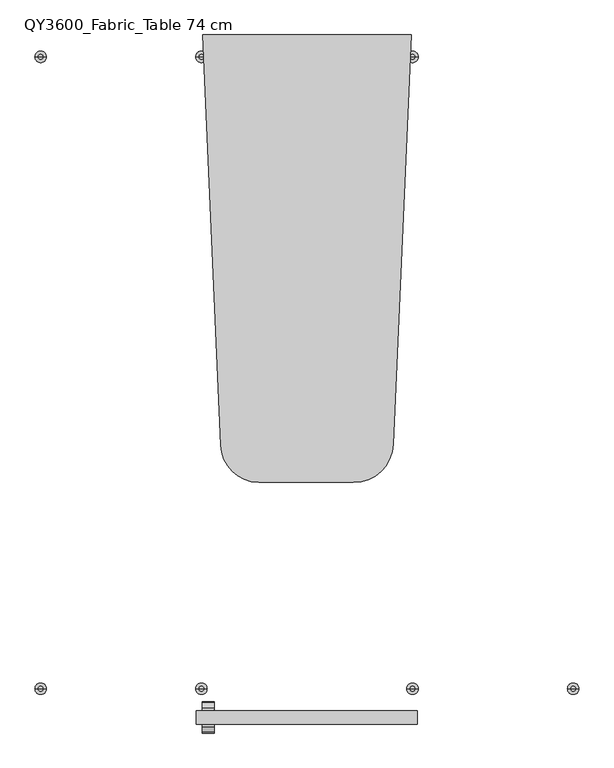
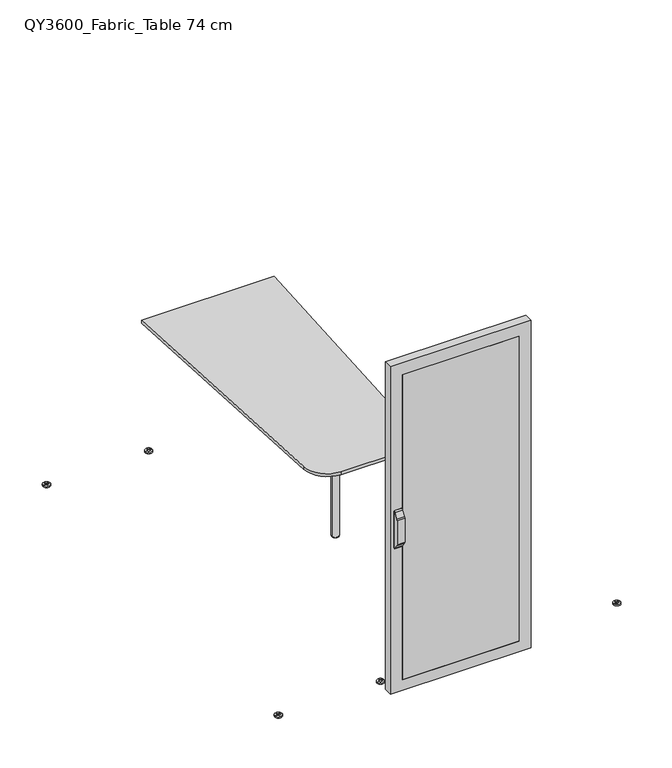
"""IFC4 building model written with IfcOpenShell, lengths in millimetres: furniture geometry, Qyos_600 : QY3600_Fabric_Table 74 cm."""

from ifc_helpers import new_model, si_unit, point, frame, frame_2d, origin, origin_with_axes, place, context, project, spatial, polyline, circle_curve, ellipse_curve, trimmed, segment, composite_curve, outline, extrude, source, transform, mapped, element, save
from ifc_brep_helpers import plane_surface, cylinder_surface, revolved_surface, advanced_brep


def qy3600_fabric_table_74_cm_bc0fd264(model_context):
    return source(origin(), model_context, "Body", "SolidModel", [
        advanced_brep(
        [(-374.085107, -1415.6314016, 980.9779398), (-374.085107, -1415.6314016, 985.9647191), (-374.085107, -1427.9469969, 991.7354618), (-374.085107, -1445.0438473, 1019.0961419), (-374.085107, -1447.6320377, 1028.7554001), (-374.085107, -1447.6320377, 1173.7554001), (-374.085107, -1443.2020658, 1196.5456299), (-374.085107, -1426.4262787, 1221.4167571), (-374.085107, -1415.6314016, 1224.0702851), (-374.085107, -1415.6314016, 1230.9669096), (-374.085107, -1427.162848, 1226.3079029), (-374.085107, -1447.7819627, 1194.5572505), (-374.085107, -1450.5, 1186.1919919), (-374.085107, -1450.5, 1025.2), (-374.085107, -1447.5610872, 1017.1254034), (-374.085107, -1427.1968679, 985.7672556), (-422.0329647, -1415.6314016, 1230.9669096), (-422.0329647, -1415.6314016, 980.9779398), (-422.0329647, -1427.1968679, 985.7672556), (-422.0329647, -1447.5610872, 1017.1254034), (-422.0329647, -1450.5, 1025.2), (-422.0329647, -1450.5, 1186.1919919), (-422.0329647, -1447.7819627, 1194.5572505), (-422.0329647, -1427.162848, 1226.3079029), (-419.3636893, -1415.6314016, 1224.0702851), (-419.3636893, -1415.6314016, 985.9647191), (-419.3636893, -1427.9469969, 991.7354618), (-419.3636893, -1426.4262787, 1221.4167571), (-419.3636893, -1443.2020658, 1196.5456299), (-419.3636893, -1447.6320377, 1173.7554001), (-419.3636893, -1447.6320377, 1028.7554001), (-419.3636893, -1445.0438473, 1019.0961419)],
        [
            (0, 1),
            (1, 2, circle_curve(frame((-374.085107, -1415.4805644, 1002.3136249), z_axis=(-1.0, 0.0, 0.0), x_axis=(0.0, -1.0, 0.0)), 16.3496016)),
            (2, 3, circle_curve(frame((-374.085107, 230.4570487, 2047.0433119), z_axis=(-1.0, 0.0, 0.0), x_axis=(0.0, -1.0, 0.0)), 1965.7005461)),
            (3, 4, circle_curve(frame((-374.085107, -1430.0644692, 1028.286235), z_axis=(-1.0, 0.0, 0.0), x_axis=(0.0, -1.0, 0.0)), 17.5738323)),
            (4, 5),
            (5, 6, circle_curve(frame((-374.085107, -1386.7942676, 1173.7554001), z_axis=(-1.0, 0.0, 0.0), x_axis=(0.0, -1.0, 0.0)), 60.8377701)),
            (6, 7, circle_curve(frame((-374.085107, -1702.3576761, 1389.4415655), z_axis=(1.0, 0.0, 0.0), x_axis=(0.0, -1.0, 0.0)), 323.0641922)),
            (7, 8, circle_curve(frame((-374.085107, -1415.6314016, 1200.7860796), z_axis=(-1.0, 0.0, 0.0), x_axis=(0.0, -1.0, 0.0)), 23.2842055)),
            (8, 9),
            (9, 10, circle_curve(frame((-374.085107, -1417.4087289, 1218.7657801), z_axis=(1.0, 0.0, 0.0), x_axis=(0.0, -1.0, 0.0)), 12.3299009)),
            (10, 11, circle_curve(frame((-374.085107, -818.9237769, 808.7424006), z_axis=(1.0, 0.0, 0.0), x_axis=(0.0, -1.0, 0.0)), 737.777552)),
            (11, 12, circle_curve(frame((-374.085107, -1431.7589098, 1184.7268438), z_axis=(1.0, 0.0, 0.0), x_axis=(0.0, -1.0, 0.0)), 18.7982744)),
            (12, 13),
            (13, 14, circle_curve(frame((-374.085107, -1403.525418, 1037.7252129), z_axis=(1.0, 0.0, 0.0), x_axis=(0.0, -1.0, 0.0)), 48.615762)),
            (14, 15, circle_curve(frame((-374.085107, -1050.5394908, 1252.6628295), z_axis=(1.0, 0.0, 0.0), x_axis=(0.0, -1.0, 0.0)), 461.6319174)),
            (15, 0, circle_curve(frame((-374.085107, -1417.6091735, 992.560998), z_axis=(1.0, 0.0, 0.0), x_axis=(0.0, -1.0, 0.0)), 11.7506945)),
            (16, 17),
            (17, 18, circle_curve(frame((-422.0329647, -1417.6091735, 992.560998), z_axis=(-1.0, 0.0, 0.0), x_axis=(0.0, -1.0, 0.0)), 11.7506945)),
            (18, 19, circle_curve(frame((-422.0329647, -1050.5394908, 1252.6628295), z_axis=(-1.0, 0.0, 0.0), x_axis=(0.0, -1.0, 0.0)), 461.6319174)),
            (19, 20, circle_curve(frame((-422.0329647, -1403.525418, 1037.7252129), z_axis=(-1.0, 0.0, 0.0), x_axis=(0.0, -1.0, 0.0)), 48.615762)),
            (20, 21),
            (21, 22, circle_curve(frame((-422.0329647, -1431.7589098, 1184.7268438), z_axis=(-1.0, 0.0, 0.0), x_axis=(0.0, -1.0, 0.0)), 18.7982744)),
            (22, 23, circle_curve(frame((-422.0329647, -818.9237769, 808.7424006), z_axis=(-1.0, 0.0, 0.0), x_axis=(0.0, -1.0, 0.0)), 737.777552)),
            (23, 16, circle_curve(frame((-422.0329647, -1417.4087289, 1218.7657801), z_axis=(-1.0, 0.0, 0.0), x_axis=(0.0, -1.0, 0.0)), 12.3299009)),
            (16, 9),
            (8, 24),
            (24, 25),
            (25, 1),
            (0, 17),
            (15, 18),
            (14, 19),
            (13, 20),
            (12, 21),
            (11, 22),
            (10, 23),
            (26, 25, circle_curve(frame((-419.3636893, -1415.4805644, 1002.3136249), z_axis=(1.0, 0.0, 0.0), x_axis=(0.0, -1.0, 0.0)), 16.3496016)),
            (24, 27, circle_curve(frame((-419.3636893, -1415.6314016, 1200.7860796), z_axis=(1.0, 0.0, 0.0), x_axis=(0.0, -1.0, 0.0)), 23.2842055)),
            (27, 28, circle_curve(frame((-419.3636893, -1702.3576761, 1389.4415655), z_axis=(-1.0, 0.0, 0.0), x_axis=(0.0, -1.0, 0.0)), 323.0641922)),
            (28, 29, circle_curve(frame((-419.3636893, -1386.7942676, 1173.7554001), z_axis=(1.0, 0.0, 0.0), x_axis=(0.0, -1.0, 0.0)), 60.8377701)),
            (29, 30),
            (30, 31, circle_curve(frame((-419.3636893, -1430.0644692, 1028.286235), z_axis=(1.0, 0.0, 0.0), x_axis=(0.0, -1.0, 0.0)), 17.5738323)),
            (31, 26, circle_curve(frame((-419.3636893, 230.4570487, 2047.0433119), z_axis=(1.0, 0.0, 0.0), x_axis=(0.0, -1.0, 0.0)), 1965.7005461)),
            (26, 2),
            (31, 3),
            (30, 4),
            (29, 5),
            (28, 6),
            (27, 7),
        ],
        [
            plane_surface(frame((-374.085107, -1415.6314016, 980.9779398), z_axis=(1.0, 0.0, 0.0), x_axis=(0.0, 0.0, -1.0))),
            plane_surface(frame((-422.0329647, -1415.6314016, 980.9779398), z_axis=(-1.0, 0.0, 0.0), x_axis=(0.0, 0.0, 1.0))),
            plane_surface(frame((-374.085107, -1415.6314016, 1230.9669096), z_axis=(0.0, 1.0, 0.0), x_axis=(-1.0, 0.0, 0.0))),
            cylinder_surface(frame((-422.0329647, -1417.6091735, 992.560998), z_axis=(1.0, 0.0, 0.0), x_axis=(0.0, -1.0, 0.0)), 11.7506945),
            cylinder_surface(frame((-422.0329647, -1050.5394908, 1252.6628295), z_axis=(1.0, 0.0, 0.0), x_axis=(0.0, -1.0, 0.0)), 461.6319174),
            cylinder_surface(frame((-422.0329647, -1403.525418, 1037.7252129), z_axis=(1.0, 0.0, 0.0), x_axis=(0.0, -1.0, 0.0)), 48.615762),
            plane_surface(frame((-374.085107, -1450.5, 1025.2), z_axis=(0.0, -1.0, 0.0), x_axis=(-1.0, 0.0, 0.0))),
            cylinder_surface(frame((-422.0329647, -1431.7589098, 1184.7268438), z_axis=(1.0, 0.0, 0.0), x_axis=(0.0, -1.0, 0.0)), 18.7982744),
            cylinder_surface(frame((-422.0329647, -818.9237769, 808.7424006), z_axis=(1.0, 0.0, 0.0), x_axis=(0.0, -1.0, 0.0)), 737.777552),
            cylinder_surface(frame((-422.0329647, -1417.4087289, 1218.7657801), z_axis=(1.0, 0.0, 0.0), x_axis=(0.0, -1.0, 0.0)), 12.3299009),
            plane_surface(frame((-419.3636893, -1401.7185794, 1224.0702851), z_axis=(1.0, 0.0, 0.0), x_axis=(0.0, 0.0, 1.0))),
            revolved_surface(polyline([(-374.085107, -1431.830166, 1002.3136249), (-419.3636893, -1431.830166, 1002.3136249)]), (-419.3636893, -1415.4805644, 1002.3136249), (1.0, 0.0, 0.0)),
            revolved_surface(polyline([(-374.085107, -1735.2434974, 2047.0433119), (-419.3636893, -1735.2434974, 2047.0433119)]), (-419.3636893, 230.4570487, 2047.0433119), (1.0, 0.0, 0.0)),
            revolved_surface(polyline([(-374.085107, -1447.6383015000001, 1028.286235), (-419.3636893, -1447.6383015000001, 1028.286235)]), (-419.3636893, -1430.0644692, 1028.286235), (1.0, 0.0, 0.0)),
            plane_surface(frame((-366.879078, -1447.6320377, 1028.7554001), z_axis=(0.0, 1.0, 0.0), x_axis=(-1.0, 0.0, 0.0))),
            revolved_surface(polyline([(-374.085107, -1447.6320377, 1173.7554001), (-419.3636893, -1447.6320377, 1173.7554001)]), (-419.3636893, -1386.7942676, 1173.7554001), (1.0, 0.0, 0.0)),
            cylinder_surface(frame((-419.3636893, -1702.3576761, 1389.4415655), z_axis=(-1.0, 0.0, 0.0), x_axis=(0.0, -1.0, 0.0)), 323.0641922),
            revolved_surface(polyline([(-374.085107, -1438.9156071, 1200.7860796), (-419.3636893, -1438.9156071, 1200.7860796)]), (-419.3636893, -1415.6314016, 1200.7860796), (1.0, 0.0, 0.0)),
        ],
        [
            (0, [[1, 2, 3, 4, 5, 6, 7, 8, 9, 10, 11, 12, 13, 14, 15, 16]]),
            (1, [[17, 18, 19, 20, 21, 22, 23, 24]]),
            (2, [[25, -9, 26, 27, 28, -1, 29, -17]]),
            (3, [[30, -18, -29, -16]]),
            (4, [[31, -19, -30, -15]]),
            (5, [[32, -20, -31, -14]]),
            (6, [[33, -21, -32, -13]]),
            (7, [[34, -22, -33, -12]]),
            (8, [[35, -23, -34, -11]]),
            (9, [[-25, -24, -35, -10]]),
            (10, [[36, -27, 37, 38, 39, 40, 41, 42]]),
            (11, [[43, -2, -28, -36]]),
            (12, [[44, -3, -43, -42]]),
            (13, [[45, -4, -44, -41]]),
            (14, [[46, -5, -45, -40]]),
            (15, [[47, -6, -46, -39]]),
            (16, [[48, -7, -47, -38]]),
            (17, [[-26, -8, -48, -37]]),
        ],
    ),
        extrude(outline(composite_curve([segment(polyline([(1230.9669096, -377.0853832), (1230.9669096, -417.0486701)]), True, "CONTINUOUS"), segment(trimmed(circle_curve(frame_2d((1225.973762, -417.0486701)), 4.9931477), [point((1230.9669096, -417.0486701))], [point((1225.973762, -422.0418178))], False, "CARTESIAN"), True, "CONTINUOUS"), segment(polyline([(1225.973762, -422.0418178), (985.9710874, -422.0418178)]), True, "CONTINUOUS"), segment(trimmed(circle_curve(frame_2d((985.9710874, -417.0486701)), 4.9931477), [point((985.9710874, -422.0418178))], [point((980.9779398, -417.0486701))], False, "CARTESIAN"), True, "CONTINUOUS"), segment(polyline([(980.9779398, -417.0486701), (980.9779398, -377.0831887)]), True, "CONTINUOUS"), segment(trimmed(circle_curve(frame_2d((983.9760215, -377.0831887)), 2.9980817), [point((980.9779398, -377.0831887))], [point((983.9760215, -374.085107))], False, "CARTESIAN"), True, "CONTINUOUS"), segment(polyline([(983.9760215, -374.085107), (985.9777208, -374.085107)]), True, "CONTINUOUS"), segment(trimmed(circle_curve(frame_2d((985.9777208, -376.3357001)), 2.2505931), [point((985.9777208, -374.085107))], [point((988.1941223, -375.9448887))], False, "CARTESIAN"), True, "CONTINUOUS"), segment(trimmed(circle_curve(frame_2d((1002.686839, -375.1402608)), 14.5150358), [point((988.1941223, -375.9448887))], [point((999.6402401, -389.331966))], True, "CARTESIAN"), True, "CONTINUOUS"), segment(trimmed(circle_curve(frame_2d((999.3564071, -397.3512428)), 8.0242982), [point((999.6402401, -389.331966))], [point((1007.3803501, -397.4267349))], False, "CARTESIAN"), True, "CONTINUOUS"), segment(trimmed(circle_curve(frame_2d((984.8527266, -400.9632944)), 22.803532), [point((1007.3803501, -397.4267349))], [point((1007.3098217, -404.9230861))], False, "CARTESIAN"), True, "CONTINUOUS"), segment(trimmed(circle_curve(frame_2d((1018.7344643, -406.9375589)), 11.600886), [point((1007.3098217, -404.9230861))], [point((1018.7344643, -418.5384449))], True, "CARTESIAN"), True, "CONTINUOUS"), segment(polyline([(1018.7344643, -418.5384449), (1193.2103851, -418.5384449)]), True, "CONTINUOUS"), segment(trimmed(circle_curve(frame_2d((1193.2103851, -406.5714853)), 11.9669596), [point((1193.2103851, -418.5384449))], [point((1205.1773447, -406.5714853))], True, "CARTESIAN"), True, "CONTINUOUS"), segment(polyline([(1205.1773447, -406.5714853), (1205.1773447, -398.0395804)]), True, "CONTINUOUS"), segment(trimmed(circle_curve(frame_2d((1213.8757406, -398.0395804)), 8.6983958), [point((1205.1773447, -398.0395804))], [point((1212.36528, -389.4733327))], False, "CARTESIAN"), True, "CONTINUOUS"), segment(trimmed(circle_curve(frame_2d((1209.9037954, -375.5135599)), 14.1751248), [point((1212.36528, -389.4733327))], [point((1224.0702851, -376.0082646))], True, "CARTESIAN"), True, "CONTINUOUS"), segment(trimmed(circle_curve(frame_2d((1225.9934427, -376.0082646)), 1.9231576), [point((1224.0702851, -376.0082646))], [point((1225.9934427, -374.085107))], False, "CARTESIAN"), True, "CONTINUOUS"), segment(polyline([(1225.9934427, -374.085107), (1227.9666334, -374.085107)]), True, "CONTINUOUS"), segment(trimmed(circle_curve(frame_2d((1227.9666334, -377.0853832)), 3.0002762), [point((1227.9666334, -374.085107))], [point((1230.9669096, -377.0853832))], False, "CARTESIAN"), True, "CONTINUOUS")], self_intersect=False)), frame((0.0, -1415.6314016, 0.0), z_axis=(0.0, 1.0, 0.0), x_axis=(0.0, 0.0, 1.0)), (0.0, 0.0, 1.0), 0.6314016),
        advanced_brep(
        [(-374.085107, -1359.3642803, 980.9779398), (-374.085107, -1347.798814, 985.7672556), (-374.085107, -1327.4345947, 1017.1254034), (-374.085107, -1324.4956819, 1025.2), (-374.085107, -1324.4956819, 1186.1919919), (-374.085107, -1327.2137192, 1194.5572505), (-374.085107, -1347.8328339, 1226.3079029), (-374.085107, -1359.3642803, 1230.9669096), (-374.085107, -1359.3642803, 1224.0702851), (-374.085107, -1348.5694032, 1221.4167571), (-374.085107, -1331.7936161, 1196.5456299), (-374.085107, -1327.3636441, 1173.7554001), (-374.085107, -1327.3636441, 1028.7554001), (-374.085107, -1329.9518346, 1019.0961419), (-374.085107, -1347.048685, 991.7354618), (-374.085107, -1359.3642803, 985.9647191), (-422.0329647, -1359.3642803, 1230.9669096), (-422.0329647, -1347.8328339, 1226.3079029), (-422.0329647, -1327.2137192, 1194.5572505), (-422.0329647, -1324.4956819, 1186.1919919), (-422.0329647, -1324.4956819, 1025.2), (-422.0329647, -1327.4345947, 1017.1254034), (-422.0329647, -1347.798814, 985.7672556), (-422.0329647, -1359.3642803, 980.9779398), (-419.3636893, -1359.3642803, 985.9647191), (-419.3636893, -1359.3642803, 1224.0702851), (-419.3636893, -1347.048685, 991.7354618), (-419.3636893, -1329.9518346, 1019.0961419), (-419.3636893, -1327.3636441, 1028.7554001), (-419.3636893, -1327.3636441, 1173.7554001), (-419.3636893, -1331.7936161, 1196.5456299), (-419.3636893, -1348.5694032, 1221.4167571)],
        [
            (0, 1, circle_curve(frame((-374.085107, -1357.3865084, 992.560998), z_axis=(1.0, 0.0, 0.0), x_axis=(0.0, 1.0, 0.0)), 11.7506945)),
            (1, 2, circle_curve(frame((-374.085107, -1724.4561911, 1252.6628295), z_axis=(1.0, 0.0, 0.0), x_axis=(0.0, 1.0, 0.0)), 461.6319174)),
            (2, 3, circle_curve(frame((-374.085107, -1371.4702639, 1037.7252129), z_axis=(1.0, 0.0, 0.0), x_axis=(0.0, 1.0, 0.0)), 48.615762)),
            (3, 4),
            (4, 5, circle_curve(frame((-374.085107, -1343.236772, 1184.7268438), z_axis=(1.0, 0.0, 0.0), x_axis=(0.0, 1.0, 0.0)), 18.7982744)),
            (5, 6, circle_curve(frame((-374.085107, -1956.071905, 808.7424006), z_axis=(1.0, 0.0, 0.0), x_axis=(0.0, 1.0, 0.0)), 737.777552)),
            (6, 7, circle_curve(frame((-374.085107, -1357.586953, 1218.7657801), z_axis=(1.0, 0.0, 0.0), x_axis=(0.0, 1.0, 0.0)), 12.3299009)),
            (7, 8),
            (8, 9, circle_curve(frame((-374.085107, -1359.3642803, 1200.7860796), z_axis=(-1.0, 0.0, 0.0), x_axis=(0.0, 1.0, 0.0)), 23.2842055)),
            (9, 10, circle_curve(frame((-374.085107, -1072.6380058, 1389.4415655), z_axis=(1.0, 0.0, 0.0), x_axis=(0.0, 1.0, 0.0)), 323.0641922)),
            (10, 11, circle_curve(frame((-374.085107, -1388.2014142, 1173.7554001), z_axis=(-1.0, 0.0, 0.0), x_axis=(0.0, 1.0, 0.0)), 60.8377701)),
            (11, 12),
            (12, 13, circle_curve(frame((-374.085107, -1344.9312127, 1028.286235), z_axis=(-1.0, 0.0, 0.0), x_axis=(0.0, 1.0, 0.0)), 17.5738323)),
            (13, 14, circle_curve(frame((-374.085107, -3005.4527306, 2047.0433119), z_axis=(-1.0, 0.0, 0.0), x_axis=(0.0, 1.0, 0.0)), 1965.7005461)),
            (14, 15, circle_curve(frame((-374.085107, -1359.5151175, 1002.3136249), z_axis=(-1.0, 0.0, 0.0), x_axis=(0.0, 1.0, 0.0)), 16.3496016)),
            (15, 0),
            (16, 17, circle_curve(frame((-422.0329647, -1357.586953, 1218.7657801), z_axis=(-1.0, 0.0, 0.0), x_axis=(0.0, 1.0, 0.0)), 12.3299009)),
            (17, 18, circle_curve(frame((-422.0329647, -1956.071905, 808.7424006), z_axis=(-1.0, 0.0, 0.0), x_axis=(0.0, 1.0, 0.0)), 737.777552)),
            (18, 19, circle_curve(frame((-422.0329647, -1343.236772, 1184.7268438), z_axis=(-1.0, 0.0, 0.0), x_axis=(0.0, 1.0, 0.0)), 18.7982744)),
            (19, 20),
            (20, 21, circle_curve(frame((-422.0329647, -1371.4702639, 1037.7252129), z_axis=(-1.0, 0.0, 0.0), x_axis=(0.0, 1.0, 0.0)), 48.615762)),
            (21, 22, circle_curve(frame((-422.0329647, -1724.4561911, 1252.6628295), z_axis=(-1.0, 0.0, 0.0), x_axis=(0.0, 1.0, 0.0)), 461.6319174)),
            (22, 23, circle_curve(frame((-422.0329647, -1357.3865084, 992.560998), z_axis=(-1.0, 0.0, 0.0), x_axis=(0.0, 1.0, 0.0)), 11.7506945)),
            (23, 16),
            (23, 0),
            (15, 24),
            (24, 25),
            (25, 8),
            (7, 16),
            (22, 1),
            (21, 2),
            (20, 3),
            (19, 4),
            (18, 5),
            (17, 6),
            (26, 27, circle_curve(frame((-419.3636893, -3005.4527306, 2047.0433119), z_axis=(1.0, 0.0, 0.0), x_axis=(0.0, 1.0, 0.0)), 1965.7005461)),
            (27, 28, circle_curve(frame((-419.3636893, -1344.9312127, 1028.286235), z_axis=(1.0, 0.0, 0.0), x_axis=(0.0, 1.0, 0.0)), 17.5738323)),
            (28, 29),
            (29, 30, circle_curve(frame((-419.3636893, -1388.2014142, 1173.7554001), z_axis=(1.0, 0.0, 0.0), x_axis=(0.0, 1.0, 0.0)), 60.8377701)),
            (30, 31, circle_curve(frame((-419.3636893, -1072.6380058, 1389.4415655), z_axis=(-1.0, 0.0, 0.0), x_axis=(0.0, 1.0, 0.0)), 323.0641922)),
            (31, 25, circle_curve(frame((-419.3636893, -1359.3642803, 1200.7860796), z_axis=(1.0, 0.0, 0.0), x_axis=(0.0, 1.0, 0.0)), 23.2842055)),
            (24, 26, circle_curve(frame((-419.3636893, -1359.5151175, 1002.3136249), z_axis=(1.0, 0.0, 0.0), x_axis=(0.0, 1.0, 0.0)), 16.3496016)),
            (14, 26),
            (13, 27),
            (12, 28),
            (11, 29),
            (10, 30),
            (9, 31),
        ],
        [
            plane_surface(frame((-374.085107, -1359.3642803, 980.9779398), z_axis=(1.0, 0.0, 0.0), x_axis=(0.0, 0.0, -1.0))),
            plane_surface(frame((-422.0329647, -1359.3642803, 980.9779398), z_axis=(-1.0, 0.0, 0.0), x_axis=(0.0, 0.0, 1.0))),
            plane_surface(frame((-374.085107, -1359.3642803, 1230.9669096), z_axis=(0.0, -1.0, 0.0), x_axis=(-1.0, 0.0, 0.0))),
            cylinder_surface(frame((-422.0329647, -1357.3865084, 992.560998), z_axis=(1.0, 0.0, 0.0), x_axis=(0.0, 1.0, 0.0)), 11.7506945),
            cylinder_surface(frame((-422.0329647, -1724.4561911, 1252.6628295), z_axis=(1.0, 0.0, 0.0), x_axis=(0.0, 1.0, 0.0)), 461.6319174),
            cylinder_surface(frame((-422.0329647, -1371.4702639, 1037.7252129), z_axis=(1.0, 0.0, 0.0), x_axis=(0.0, 1.0, 0.0)), 48.615762),
            plane_surface(frame((-374.085107, -1324.4956819, 1025.2), z_axis=(0.0, 1.0, 0.0), x_axis=(-1.0, 0.0, 0.0))),
            cylinder_surface(frame((-422.0329647, -1343.236772, 1184.7268438), z_axis=(1.0, 0.0, 0.0), x_axis=(0.0, 1.0, 0.0)), 18.7982744),
            cylinder_surface(frame((-422.0329647, -1956.071905, 808.7424006), z_axis=(1.0, 0.0, 0.0), x_axis=(0.0, 1.0, 0.0)), 737.777552),
            cylinder_surface(frame((-422.0329647, -1357.586953, 1218.7657801), z_axis=(1.0, 0.0, 0.0), x_axis=(0.0, 1.0, 0.0)), 12.3299009),
            plane_surface(frame((-419.3636893, -1373.2771024, 1224.0702851), z_axis=(1.0, 0.0, 0.0), x_axis=(0.0, 0.0, 1.0))),
            revolved_surface(polyline([(-374.085107, -1343.1655159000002, 1002.3136249), (-419.3636893, -1343.1655159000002, 1002.3136249)]), (-419.3636893, -1359.5151175, 1002.3136249), (1.0, 0.0, 0.0)),
            revolved_surface(polyline([(-374.085107, -1039.7521844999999, 2047.0433119), (-419.3636893, -1039.7521844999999, 2047.0433119)]), (-419.3636893, -3005.4527306, 2047.0433119), (1.0, 0.0, 0.0)),
            revolved_surface(polyline([(-374.085107, -1327.3573804, 1028.286235), (-419.3636893, -1327.3573804, 1028.286235)]), (-419.3636893, -1344.9312127, 1028.286235), (1.0, 0.0, 0.0)),
            plane_surface(frame((-366.879078, -1327.3636441, 1028.7554001), z_axis=(0.0, -1.0, 0.0), x_axis=(-1.0, 0.0, 0.0))),
            revolved_surface(polyline([(-374.085107, -1327.3636441, 1173.7554001), (-419.3636893, -1327.3636441, 1173.7554001)]), (-419.3636893, -1388.2014142, 1173.7554001), (1.0, 0.0, 0.0)),
            cylinder_surface(frame((-419.3636893, -1072.6380058, 1389.4415655), z_axis=(-1.0, 0.0, 0.0), x_axis=(0.0, 1.0, 0.0)), 323.0641922),
            revolved_surface(polyline([(-374.085107, -1336.0800748, 1200.7860796), (-419.3636893, -1336.0800748, 1200.7860796)]), (-419.3636893, -1359.3642803, 1200.7860796), (1.0, 0.0, 0.0)),
        ],
        [
            (0, [[1, 2, 3, 4, 5, 6, 7, 8, 9, 10, 11, 12, 13, 14, 15, 16]]),
            (1, [[17, 18, 19, 20, 21, 22, 23, 24]]),
            (2, [[-24, 25, -16, 26, 27, 28, -8, 29]]),
            (3, [[-1, -25, -23, 30]]),
            (4, [[-2, -30, -22, 31]]),
            (5, [[-3, -31, -21, 32]]),
            (6, [[-4, -32, -20, 33]]),
            (7, [[-5, -33, -19, 34]]),
            (8, [[-6, -34, -18, 35]]),
            (9, [[-7, -35, -17, -29]]),
            (10, [[36, 37, 38, 39, 40, 41, -27, 42]]),
            (11, [[-42, -26, -15, 43]]),
            (12, [[-36, -43, -14, 44]]),
            (13, [[-37, -44, -13, 45]]),
            (14, [[-38, -45, -12, 46]]),
            (15, [[-39, -46, -11, 47]]),
            (16, [[-40, -47, -10, 48]]),
            (17, [[-41, -48, -9, -28]]),
        ],
    ),
        extrude(outline(composite_curve([segment(polyline([(1230.9669096, -377.0853832), (1230.9669096, -417.0486701)]), True, "CONTINUOUS"), segment(trimmed(circle_curve(frame_2d((1225.973762, -417.0486701)), 4.9931477), [point((1230.9669096, -417.0486701))], [point((1225.973762, -422.0418178))], False, "CARTESIAN"), True, "CONTINUOUS"), segment(polyline([(1225.973762, -422.0418178), (985.9710874, -422.0418178)]), True, "CONTINUOUS"), segment(trimmed(circle_curve(frame_2d((985.9710874, -417.0486701)), 4.9931477), [point((985.9710874, -422.0418178))], [point((980.9779398, -417.0486701))], False, "CARTESIAN"), True, "CONTINUOUS"), segment(polyline([(980.9779398, -417.0486701), (980.9779398, -377.0831887)]), True, "CONTINUOUS"), segment(trimmed(circle_curve(frame_2d((983.9760215, -377.0831887)), 2.9980817), [point((980.9779398, -377.0831887))], [point((983.9760215, -374.085107))], False, "CARTESIAN"), True, "CONTINUOUS"), segment(polyline([(983.9760215, -374.085107), (985.9777208, -374.085107)]), True, "CONTINUOUS"), segment(trimmed(circle_curve(frame_2d((985.9777208, -376.3357001)), 2.2505931), [point((985.9777208, -374.085107))], [point((988.1941223, -375.9448887))], False, "CARTESIAN"), True, "CONTINUOUS"), segment(trimmed(circle_curve(frame_2d((1002.686839, -375.1402608)), 14.5150358), [point((988.1941223, -375.9448887))], [point((999.6402401, -389.331966))], True, "CARTESIAN"), True, "CONTINUOUS"), segment(trimmed(circle_curve(frame_2d((999.3564071, -397.3512428)), 8.0242982), [point((999.6402401, -389.331966))], [point((1007.3803501, -397.4267349))], False, "CARTESIAN"), True, "CONTINUOUS"), segment(trimmed(circle_curve(frame_2d((984.8527266, -400.9632944)), 22.803532), [point((1007.3803501, -397.4267349))], [point((1007.3098217, -404.9230861))], False, "CARTESIAN"), True, "CONTINUOUS"), segment(trimmed(circle_curve(frame_2d((1018.7344643, -406.9375589)), 11.600886), [point((1007.3098217, -404.9230861))], [point((1018.7344643, -418.5384449))], True, "CARTESIAN"), True, "CONTINUOUS"), segment(polyline([(1018.7344643, -418.5384449), (1193.2103851, -418.5384449)]), True, "CONTINUOUS"), segment(trimmed(circle_curve(frame_2d((1193.2103851, -406.5714853)), 11.9669596), [point((1193.2103851, -418.5384449))], [point((1205.1773447, -406.5714853))], True, "CARTESIAN"), True, "CONTINUOUS"), segment(polyline([(1205.1773447, -406.5714853), (1205.1773447, -398.0395804)]), True, "CONTINUOUS"), segment(trimmed(circle_curve(frame_2d((1213.8757406, -398.0395804)), 8.6983958), [point((1205.1773447, -398.0395804))], [point((1212.36528, -389.4733327))], False, "CARTESIAN"), True, "CONTINUOUS"), segment(trimmed(circle_curve(frame_2d((1209.9037954, -375.5135599)), 14.1751248), [point((1212.36528, -389.4733327))], [point((1224.0702851, -376.0082646))], True, "CARTESIAN"), True, "CONTINUOUS"), segment(trimmed(circle_curve(frame_2d((1225.9934427, -376.0082646)), 1.9231576), [point((1224.0702851, -376.0082646))], [point((1225.9934427, -374.085107))], False, "CARTESIAN"), True, "CONTINUOUS"), segment(polyline([(1225.9934427, -374.085107), (1227.9666334, -374.085107)]), True, "CONTINUOUS"), segment(trimmed(circle_curve(frame_2d((1227.9666334, -377.0853832)), 3.0002762), [point((1227.9666334, -374.085107))], [point((1230.9669096, -377.0853832))], False, "CARTESIAN"), True, "CONTINUOUS")], self_intersect=False)), frame((0.0, -1359.9956819, 0.0), z_axis=(0.0, 1.0, 0.0), x_axis=(0.0, 0.0, 1.0)), (0.0, 0.0, 1.0), 0.6314016),
        extrude(outline(polyline([(369.5, -1415.0), (-369.5, -1415.0), (-369.5, -1410.0), (369.5, -1410.0), (369.5, -1415.0)])), frame((0.0, 0.0, 82.0), z_axis=(0.0, 0.0, 1.0), x_axis=(1.0, 0.0, 0.0)), (0.0, 0.0, 1.0), 2040.1),
        extrude(outline(polyline([(10.0, -445.0), (10.0, 445.0), (2202.1, 445.0), (2202.1, -445.0), (10.0, -445.0)]), holes=[polyline([(82.0, 369.5), (82.0, -369.5), (2122.1, -369.5), (2122.1, 369.5), (82.0, 369.5)])]), frame((0.0, -1415.0, 0.0), z_axis=(0.0, 1.0, 0.0), x_axis=(0.0, 0.0, 1.0)), (0.0, 0.0, 1.0), 55.0043181),
        advanced_brep(
        [(0.0, -40.0, 82.0), (18.7621631, -40.0, 82.0), (-18.7621631, -40.0, 82.0), (22.480604, -40.0, 85.7184409), (-22.480604, -40.0, 85.7184409), (22.480604, -40.0, 803.0), (-22.480604, -40.0, 803.0), (0.0, -40.0, 803.0)],
        [
            (0, 1),
            (1, 2, circle_curve(frame((0.0, -40.0, 82.0), z_axis=(0.0, 0.0, -1.0), x_axis=(1.0, 0.0, 0.0)), 18.7621631)),
            (2, 0),
            (2, 1, circle_curve(frame((0.0, -40.0, 82.0), z_axis=(0.0, 0.0, -1.0), x_axis=(1.0, 0.0, 0.0)), 18.7621631)),
            (1, 3, circle_curve(frame((16.4330916, -40.0, 88.0475124), z_axis=(0.0, -1.0, 0.0), x_axis=(-1.0, 0.0, 0.0)), 6.4805077)),
            (3, 4, circle_curve(frame((0.0, -40.0, 85.7184409), z_axis=(0.0, 0.0, -1.0), x_axis=(1.0, 0.0, 0.0)), 22.480604)),
            (4, 2, circle_curve(frame((-16.4330916, -40.0, 88.0475124), z_axis=(0.0, -1.0, 0.0), x_axis=(1.0, 0.0, 0.0)), 6.4805077)),
            (4, 3, circle_curve(frame((0.0, -40.0, 85.7184409), z_axis=(0.0, 0.0, -1.0), x_axis=(1.0, 0.0, 0.0)), 22.480604)),
            (3, 5),
            (5, 6, circle_curve(frame((0.0, -40.0, 803.0), z_axis=(0.0, 0.0, -1.0), x_axis=(1.0, 0.0, 0.0)), 22.480604)),
            (6, 4),
            (6, 5, circle_curve(frame((0.0, -40.0, 803.0), z_axis=(0.0, 0.0, -1.0), x_axis=(1.0, 0.0, 0.0)), 22.480604)),
            (5, 7),
            (7, 6),
        ],
        [
            plane_surface(frame((0.0, -40.0, 82.0), z_axis=(0.0, 0.0, -1.0), x_axis=(1.0, 0.0, 0.0))),
            revolved_surface(trimmed(ellipse_curve(frame((16.4330916, -40.0, 88.0475124), z_axis=(0.0, 1.0, 0.0), x_axis=(-1.0, 0.0, 0.0)), 6.4805077, 6.4805077), [point((22.480604, -40.0, 85.7184409))], [point((18.7621631, -40.0, 82.0))], True, "CARTESIAN"), (0.0, -40.0, 1672.4144888), (0.0, 0.0, -1.0)),
            cylinder_surface(frame((0.0, -40.0, 1672.4144888), z_axis=(0.0, 0.0, -1.0), x_axis=(1.0, 0.0, 0.0)), 22.480604),
            plane_surface(frame((0.0, -40.0, 803.0), z_axis=(0.0, 0.0, 1.0), x_axis=(1.0, 0.0, 0.0))),
        ],
        [
            (0, [[1, 2, 3]]),
            (0, [[-3, 4, -1]]),
            (1, [[-2, 5, 6, 7]]),
            (1, [[-4, -7, 8, -5]]),
            (2, [[-6, 9, 10, 11]]),
            (2, [[-8, -11, 12, -9]]),
            (3, [[-10, 13, 14]]),
            (3, [[-12, -14, -13]]),
        ],
    ),
        extrude(outline(composite_curve([segment(polyline([(-420.0, 1360.0), (420.0, 1360.0), (348.0404396, -287.7046855)]), True, "CONTINUOUS"), segment(trimmed(circle_curve(frame_2d((187.5, -280.6934658)), 160.6934658), [point((348.0404396, -287.7046855))], [point((187.5, -441.3869317))], False, "CARTESIAN"), True, "CONTINUOUS"), segment(polyline([(187.5, -441.3869317), (-194.7276636, -441.3869317)]), True, "CONTINUOUS"), segment(trimmed(circle_curve(frame_2d((-191.1138318, -284.8919121)), 156.5367399), [point((-194.7276636, -441.3869317))], [point((-347.5, -291.7561198))], False, "CARTESIAN"), True, "CONTINUOUS"), segment(polyline([(-347.5, -291.7561198), (-420.0, 1360.0)]), True, "CONTINUOUS")], self_intersect=False)), frame((0.0, 0.0, 803.0), z_axis=(0.0, 0.0, 1.0), x_axis=(1.0, 0.0, 0.0)), (0.0, 0.0, 1.0), 19.0),
        advanced_brep(
        [(401.8585356, -1272.0, 0.0), (448.1414644, -1272.0, 0.0), (425.0, -1272.0, 0.0), (401.8585356, -1272.0, 7.0), (448.1414644, -1272.0, 7.0), (415.3615446, -1272.0, 7.0), (434.6384554, -1272.0, 7.0), (415.3615446, -1272.0, 17.0), (434.6384554, -1272.0, 17.0), (425.0, -1272.0, 17.0)],
        [
            (0, 1, circle_curve(frame((425.0, -1272.0, 0.0), z_axis=(0.0, 0.0, -1.0), x_axis=(1.0, 0.0, 0.0)), 23.1414644)),
            (1, 2),
            (2, 0),
            (1, 0, circle_curve(frame((425.0, -1272.0, 0.0), z_axis=(0.0, 0.0, -1.0), x_axis=(1.0, 0.0, 0.0)), 23.1414644)),
            (3, 4, circle_curve(frame((425.0, -1272.0, 7.0), z_axis=(0.0, 0.0, -1.0), x_axis=(1.0, 0.0, 0.0)), 23.1414644)),
            (4, 1),
            (0, 3),
            (4, 3, circle_curve(frame((425.0, -1272.0, 7.0), z_axis=(0.0, 0.0, -1.0), x_axis=(1.0, 0.0, 0.0)), 23.1414644)),
            (5, 6, circle_curve(frame((425.0, -1272.0, 7.0), z_axis=(0.0, 0.0, -1.0), x_axis=(1.0, 0.0, 0.0)), 9.6384554)),
            (6, 4),
            (3, 5),
            (6, 5, circle_curve(frame((425.0, -1272.0, 7.0), z_axis=(0.0, 0.0, -1.0), x_axis=(1.0, 0.0, 0.0)), 9.6384554)),
            (7, 8, circle_curve(frame((425.0, -1272.0, 17.0), z_axis=(0.0, 0.0, -1.0), x_axis=(1.0, 0.0, 0.0)), 9.6384554)),
            (8, 6),
            (5, 7),
            (8, 7, circle_curve(frame((425.0, -1272.0, 17.0), z_axis=(0.0, 0.0, -1.0), x_axis=(1.0, 0.0, 0.0)), 9.6384554)),
            (9, 8),
            (7, 9),
        ],
        [
            plane_surface(frame((425.0, -1272.0, 0.0), z_axis=(0.0, 0.0, -1.0), x_axis=(1.0, 0.0, 0.0))),
            cylinder_surface(frame((425.0, -1272.0, 1997.4144888), z_axis=(0.0, 0.0, 1.0), x_axis=(1.0, 0.0, 0.0)), 23.1414644),
            plane_surface(frame((425.0, -1272.0, 7.0), z_axis=(0.0, 0.0, 1.0), x_axis=(1.0, 0.0, 0.0))),
            cylinder_surface(frame((425.0, -1272.0, 1997.4144888), z_axis=(0.0, 0.0, 1.0), x_axis=(1.0, 0.0, 0.0)), 9.6384554),
            plane_surface(frame((425.0, -1272.0, 17.0), z_axis=(0.0, 0.0, 1.0), x_axis=(1.0, 0.0, 0.0))),
        ],
        [
            (0, [[1, 2, 3]]),
            (0, [[4, -3, -2]]),
            (1, [[5, 6, -1, 7]]),
            (1, [[8, -7, -4, -6]]),
            (2, [[9, 10, -5, 11]]),
            (2, [[12, -11, -8, -10]]),
            (3, [[13, 14, -9, 15]]),
            (3, [[16, -15, -12, -14]]),
            (4, [[17, -13, 18]]),
            (4, [[-18, -16, -17]]),
        ],
    ),
        extrude(outline(composite_curve([segment(trimmed(circle_curve(frame_2d((425.0, -1272.0)), 23.1414644), [point((401.8585356, -1272.0))], [point((448.1414644, -1272.0))], False, "CARTESIAN"), True, "CONTINUOUS"), segment(trimmed(circle_curve(frame_2d((425.0, -1272.0)), 23.1414644), [point((448.1414644, -1272.0))], [point((401.8585356, -1272.0))], False, "CARTESIAN"), True, "CONTINUOUS")], self_intersect=False)), origin_with_axes(), (0.0, 0.0, 1.0), 7.0),
        advanced_brep(
        [(401.8585356, 1272.0, 0.0), (448.1414644, 1272.0, 0.0), (425.0, 1272.0, 0.0), (401.8585356, 1272.0, 7.0), (448.1414644, 1272.0, 7.0), (415.3615446, 1272.0, 7.0), (434.6384554, 1272.0, 7.0), (415.3615446, 1272.0, 17.0), (434.6384554, 1272.0, 17.0), (425.0, 1272.0, 17.0)],
        [
            (0, 1, circle_curve(frame((425.0, 1272.0, 0.0), z_axis=(0.0, 0.0, -1.0), x_axis=(1.0, 0.0, 0.0)), 23.1414644)),
            (1, 2),
            (2, 0),
            (1, 0, circle_curve(frame((425.0, 1272.0, 0.0), z_axis=(0.0, 0.0, -1.0), x_axis=(1.0, 0.0, 0.0)), 23.1414644)),
            (3, 4, circle_curve(frame((425.0, 1272.0, 7.0), z_axis=(0.0, 0.0, -1.0), x_axis=(1.0, 0.0, 0.0)), 23.1414644)),
            (4, 1),
            (0, 3),
            (4, 3, circle_curve(frame((425.0, 1272.0, 7.0), z_axis=(0.0, 0.0, -1.0), x_axis=(1.0, 0.0, 0.0)), 23.1414644)),
            (5, 6, circle_curve(frame((425.0, 1272.0, 7.0), z_axis=(0.0, 0.0, -1.0), x_axis=(1.0, 0.0, 0.0)), 9.6384554)),
            (6, 4),
            (3, 5),
            (6, 5, circle_curve(frame((425.0, 1272.0, 7.0), z_axis=(0.0, 0.0, -1.0), x_axis=(1.0, 0.0, 0.0)), 9.6384554)),
            (7, 8, circle_curve(frame((425.0, 1272.0, 17.0), z_axis=(0.0, 0.0, -1.0), x_axis=(1.0, 0.0, 0.0)), 9.6384554)),
            (8, 6),
            (5, 7),
            (8, 7, circle_curve(frame((425.0, 1272.0, 17.0), z_axis=(0.0, 0.0, -1.0), x_axis=(1.0, 0.0, 0.0)), 9.6384554)),
            (9, 8),
            (7, 9),
        ],
        [
            plane_surface(frame((425.0, 1272.0, 0.0), z_axis=(0.0, 0.0, -1.0), x_axis=(1.0, 0.0, 0.0))),
            cylinder_surface(frame((425.0, 1272.0, 1997.4144888), z_axis=(0.0, 0.0, 1.0), x_axis=(1.0, 0.0, 0.0)), 23.1414644),
            plane_surface(frame((425.0, 1272.0, 7.0), z_axis=(0.0, 0.0, 1.0), x_axis=(1.0, 0.0, 0.0))),
            cylinder_surface(frame((425.0, 1272.0, 1997.4144888), z_axis=(0.0, 0.0, 1.0), x_axis=(1.0, 0.0, 0.0)), 9.6384554),
            plane_surface(frame((425.0, 1272.0, 17.0), z_axis=(0.0, 0.0, 1.0), x_axis=(1.0, 0.0, 0.0))),
        ],
        [
            (0, [[1, 2, 3]]),
            (0, [[4, -3, -2]]),
            (1, [[5, 6, -1, 7]]),
            (1, [[8, -7, -4, -6]]),
            (2, [[9, 10, -5, 11]]),
            (2, [[12, -11, -8, -10]]),
            (3, [[13, 14, -9, 15]]),
            (3, [[16, -15, -12, -14]]),
            (4, [[17, -13, 18]]),
            (4, [[-18, -16, -17]]),
        ],
    ),
        extrude(outline(composite_curve([segment(trimmed(circle_curve(frame_2d((425.0, 1272.0)), 23.1414644), [point((401.8585356, 1272.0))], [point((448.1414644, 1272.0))], False, "CARTESIAN"), True, "CONTINUOUS"), segment(trimmed(circle_curve(frame_2d((425.0, 1272.0)), 23.1414644), [point((448.1414644, 1272.0))], [point((401.8585356, 1272.0))], False, "CARTESIAN"), True, "CONTINUOUS")], self_intersect=False)), origin_with_axes(), (0.0, 0.0, 1.0), 7.0),
        advanced_brep(
        [(1048.8585356, -1272.0, 0.0), (1095.1414644, -1272.0, 0.0), (1072.0, -1272.0, 0.0), (1048.8585356, -1272.0, 7.0), (1095.1414644, -1272.0, 7.0), (1062.3615446, -1272.0, 7.0), (1081.6384554, -1272.0, 7.0), (1062.3615446, -1272.0, 17.0), (1081.6384554, -1272.0, 17.0), (1072.0, -1272.0, 17.0)],
        [
            (0, 1, circle_curve(frame((1072.0, -1272.0, 0.0), z_axis=(0.0, 0.0, -1.0), x_axis=(1.0, 0.0, 0.0)), 23.1414644)),
            (1, 2),
            (2, 0),
            (1, 0, circle_curve(frame((1072.0, -1272.0, 0.0), z_axis=(0.0, 0.0, -1.0), x_axis=(1.0, 0.0, 0.0)), 23.1414644)),
            (3, 4, circle_curve(frame((1072.0, -1272.0, 7.0), z_axis=(0.0, 0.0, -1.0), x_axis=(1.0, 0.0, 0.0)), 23.1414644)),
            (4, 1),
            (0, 3),
            (4, 3, circle_curve(frame((1072.0, -1272.0, 7.0), z_axis=(0.0, 0.0, -1.0), x_axis=(1.0, 0.0, 0.0)), 23.1414644)),
            (5, 6, circle_curve(frame((1072.0, -1272.0, 7.0), z_axis=(0.0, 0.0, -1.0), x_axis=(1.0, 0.0, 0.0)), 9.6384554)),
            (6, 4),
            (3, 5),
            (6, 5, circle_curve(frame((1072.0, -1272.0, 7.0), z_axis=(0.0, 0.0, -1.0), x_axis=(1.0, 0.0, 0.0)), 9.6384554)),
            (7, 8, circle_curve(frame((1072.0, -1272.0, 17.0), z_axis=(0.0, 0.0, -1.0), x_axis=(1.0, 0.0, 0.0)), 9.6384554)),
            (8, 6),
            (5, 7),
            (8, 7, circle_curve(frame((1072.0, -1272.0, 17.0), z_axis=(0.0, 0.0, -1.0), x_axis=(1.0, 0.0, 0.0)), 9.6384554)),
            (9, 8),
            (7, 9),
        ],
        [
            plane_surface(frame((1072.0, -1272.0, 0.0), z_axis=(0.0, 0.0, -1.0), x_axis=(1.0, 0.0, 0.0))),
            cylinder_surface(frame((1072.0, -1272.0, 1997.4144888), z_axis=(0.0, 0.0, 1.0), x_axis=(1.0, 0.0, 0.0)), 23.1414644),
            plane_surface(frame((1072.0, -1272.0, 7.0), z_axis=(0.0, 0.0, 1.0), x_axis=(1.0, 0.0, 0.0))),
            cylinder_surface(frame((1072.0, -1272.0, 1997.4144888), z_axis=(0.0, 0.0, 1.0), x_axis=(1.0, 0.0, 0.0)), 9.6384554),
            plane_surface(frame((1072.0, -1272.0, 17.0), z_axis=(0.0, 0.0, 1.0), x_axis=(1.0, 0.0, 0.0))),
        ],
        [
            (0, [[1, 2, 3]]),
            (0, [[4, -3, -2]]),
            (1, [[5, 6, -1, 7]]),
            (1, [[8, -7, -4, -6]]),
            (2, [[9, 10, -5, 11]]),
            (2, [[12, -11, -8, -10]]),
            (3, [[13, 14, -9, 15]]),
            (3, [[16, -15, -12, -14]]),
            (4, [[17, -13, 18]]),
            (4, [[-18, -16, -17]]),
        ],
    ),
        extrude(outline(composite_curve([segment(trimmed(circle_curve(frame_2d((1072.0, -1272.0)), 23.1414644), [point((1048.8585356, -1272.0))], [point((1095.1414644, -1272.0))], False, "CARTESIAN"), True, "CONTINUOUS"), segment(trimmed(circle_curve(frame_2d((1072.0, -1272.0)), 23.1414644), [point((1095.1414644, -1272.0))], [point((1048.8585356, -1272.0))], False, "CARTESIAN"), True, "CONTINUOUS")], self_intersect=False)), origin_with_axes(), (0.0, 0.0, 1.0), 7.0),
        advanced_brep(
        [(-448.1414644, -1272.0, 0.0), (-401.8585356, -1272.0, 0.0), (-425.0, -1272.0, 0.0), (-448.1414644, -1272.0, 7.0), (-401.8585356, -1272.0, 7.0), (-434.6384554, -1272.0, 7.0), (-415.3615446, -1272.0, 7.0), (-434.6384554, -1272.0, 17.0), (-415.3615446, -1272.0, 17.0), (-425.0, -1272.0, 17.0)],
        [
            (0, 1, circle_curve(frame((-425.0, -1272.0, 0.0), z_axis=(0.0, 0.0, -1.0), x_axis=(1.0, 0.0, 0.0)), 23.1414644)),
            (1, 2),
            (2, 0),
            (1, 0, circle_curve(frame((-425.0, -1272.0, 0.0), z_axis=(0.0, 0.0, -1.0), x_axis=(1.0, 0.0, 0.0)), 23.1414644)),
            (3, 4, circle_curve(frame((-425.0, -1272.0, 7.0), z_axis=(0.0, 0.0, -1.0), x_axis=(1.0, 0.0, 0.0)), 23.1414644)),
            (4, 1),
            (0, 3),
            (4, 3, circle_curve(frame((-425.0, -1272.0, 7.0), z_axis=(0.0, 0.0, -1.0), x_axis=(1.0, 0.0, 0.0)), 23.1414644)),
            (5, 6, circle_curve(frame((-425.0, -1272.0, 7.0), z_axis=(0.0, 0.0, -1.0), x_axis=(1.0, 0.0, 0.0)), 9.6384554)),
            (6, 4),
            (3, 5),
            (6, 5, circle_curve(frame((-425.0, -1272.0, 7.0), z_axis=(0.0, 0.0, -1.0), x_axis=(1.0, 0.0, 0.0)), 9.6384554)),
            (7, 8, circle_curve(frame((-425.0, -1272.0, 17.0), z_axis=(0.0, 0.0, -1.0), x_axis=(1.0, 0.0, 0.0)), 9.6384554)),
            (8, 6),
            (5, 7),
            (8, 7, circle_curve(frame((-425.0, -1272.0, 17.0), z_axis=(0.0, 0.0, -1.0), x_axis=(1.0, 0.0, 0.0)), 9.6384554)),
            (9, 8),
            (7, 9),
        ],
        [
            plane_surface(frame((-425.0, -1272.0, 0.0), z_axis=(0.0, 0.0, -1.0), x_axis=(1.0, 0.0, 0.0))),
            cylinder_surface(frame((-425.0, -1272.0, 1997.4144888), z_axis=(0.0, 0.0, 1.0), x_axis=(1.0, 0.0, 0.0)), 23.1414644),
            plane_surface(frame((-425.0, -1272.0, 7.0), z_axis=(0.0, 0.0, 1.0), x_axis=(1.0, 0.0, 0.0))),
            cylinder_surface(frame((-425.0, -1272.0, 1997.4144888), z_axis=(0.0, 0.0, 1.0), x_axis=(1.0, 0.0, 0.0)), 9.6384554),
            plane_surface(frame((-425.0, -1272.0, 17.0), z_axis=(0.0, 0.0, 1.0), x_axis=(1.0, 0.0, 0.0))),
        ],
        [
            (0, [[1, 2, 3]]),
            (0, [[4, -3, -2]]),
            (1, [[5, 6, -1, 7]]),
            (1, [[8, -7, -4, -6]]),
            (2, [[9, 10, -5, 11]]),
            (2, [[12, -11, -8, -10]]),
            (3, [[13, 14, -9, 15]]),
            (3, [[16, -15, -12, -14]]),
            (4, [[17, -13, 18]]),
            (4, [[-18, -16, -17]]),
        ],
    ),
        extrude(outline(composite_curve([segment(trimmed(circle_curve(frame_2d((-425.0, -1272.0)), 23.1414644), [point((-448.1414644, -1272.0))], [point((-401.8585356, -1272.0))], False, "CARTESIAN"), True, "CONTINUOUS"), segment(trimmed(circle_curve(frame_2d((-425.0, -1272.0)), 23.1414644), [point((-401.8585356, -1272.0))], [point((-448.1414644, -1272.0))], False, "CARTESIAN"), True, "CONTINUOUS")], self_intersect=False)), origin_with_axes(), (0.0, 0.0, 1.0), 7.0),
        advanced_brep(
        [(-1095.1414644, -1272.0, 0.0), (-1048.8585356, -1272.0, 0.0), (-1072.0, -1272.0, 0.0), (-1095.1414644, -1272.0, 7.0), (-1048.8585356, -1272.0, 7.0), (-1081.6384554, -1272.0, 7.0), (-1062.3615446, -1272.0, 7.0), (-1081.6384554, -1272.0, 17.0), (-1062.3615446, -1272.0, 17.0), (-1072.0, -1272.0, 17.0)],
        [
            (0, 1, circle_curve(frame((-1072.0, -1272.0, 0.0), z_axis=(0.0, 0.0, -1.0), x_axis=(1.0, 0.0, 0.0)), 23.1414644)),
            (1, 2),
            (2, 0),
            (1, 0, circle_curve(frame((-1072.0, -1272.0, 0.0), z_axis=(0.0, 0.0, -1.0), x_axis=(1.0, 0.0, 0.0)), 23.1414644)),
            (3, 4, circle_curve(frame((-1072.0, -1272.0, 7.0), z_axis=(0.0, 0.0, -1.0), x_axis=(1.0, 0.0, 0.0)), 23.1414644)),
            (4, 1),
            (0, 3),
            (4, 3, circle_curve(frame((-1072.0, -1272.0, 7.0), z_axis=(0.0, 0.0, -1.0), x_axis=(1.0, 0.0, 0.0)), 23.1414644)),
            (5, 6, circle_curve(frame((-1072.0, -1272.0, 7.0), z_axis=(0.0, 0.0, -1.0), x_axis=(1.0, 0.0, 0.0)), 9.6384554)),
            (6, 4),
            (3, 5),
            (6, 5, circle_curve(frame((-1072.0, -1272.0, 7.0), z_axis=(0.0, 0.0, -1.0), x_axis=(1.0, 0.0, 0.0)), 9.6384554)),
            (7, 8, circle_curve(frame((-1072.0, -1272.0, 17.0), z_axis=(0.0, 0.0, -1.0), x_axis=(1.0, 0.0, 0.0)), 9.6384554)),
            (8, 6),
            (5, 7),
            (8, 7, circle_curve(frame((-1072.0, -1272.0, 17.0), z_axis=(0.0, 0.0, -1.0), x_axis=(1.0, 0.0, 0.0)), 9.6384554)),
            (9, 8),
            (7, 9),
        ],
        [
            plane_surface(frame((-1072.0, -1272.0, 0.0), z_axis=(0.0, 0.0, -1.0), x_axis=(1.0, 0.0, 0.0))),
            cylinder_surface(frame((-1072.0, -1272.0, 1997.4144888), z_axis=(0.0, 0.0, 1.0), x_axis=(1.0, 0.0, 0.0)), 23.1414644),
            plane_surface(frame((-1072.0, -1272.0, 7.0), z_axis=(0.0, 0.0, 1.0), x_axis=(1.0, 0.0, 0.0))),
            cylinder_surface(frame((-1072.0, -1272.0, 1997.4144888), z_axis=(0.0, 0.0, 1.0), x_axis=(1.0, 0.0, 0.0)), 9.6384554),
            plane_surface(frame((-1072.0, -1272.0, 17.0), z_axis=(0.0, 0.0, 1.0), x_axis=(1.0, 0.0, 0.0))),
        ],
        [
            (0, [[1, 2, 3]]),
            (0, [[4, -3, -2]]),
            (1, [[5, 6, -1, 7]]),
            (1, [[8, -7, -4, -6]]),
            (2, [[9, 10, -5, 11]]),
            (2, [[12, -11, -8, -10]]),
            (3, [[13, 14, -9, 15]]),
            (3, [[16, -15, -12, -14]]),
            (4, [[17, -13, 18]]),
            (4, [[-18, -16, -17]]),
        ],
    ),
        extrude(outline(composite_curve([segment(trimmed(circle_curve(frame_2d((-1072.0, -1272.0)), 23.1414644), [point((-1095.1414644, -1272.0))], [point((-1048.8585356, -1272.0))], False, "CARTESIAN"), True, "CONTINUOUS"), segment(trimmed(circle_curve(frame_2d((-1072.0, -1272.0)), 23.1414644), [point((-1048.8585356, -1272.0))], [point((-1095.1414644, -1272.0))], False, "CARTESIAN"), True, "CONTINUOUS")], self_intersect=False)), origin_with_axes(), (0.0, 0.0, 1.0), 7.0),
        advanced_brep(
        [(-1095.1414644, 1272.0, 0.0), (-1048.8585356, 1272.0, 0.0), (-1072.0, 1272.0, 0.0), (-1095.1414644, 1272.0, 7.0), (-1048.8585356, 1272.0, 7.0), (-1081.6384554, 1272.0, 7.0), (-1062.3615446, 1272.0, 7.0), (-1081.6384554, 1272.0, 17.0), (-1062.3615446, 1272.0, 17.0), (-1072.0, 1272.0, 17.0)],
        [
            (0, 1, circle_curve(frame((-1072.0, 1272.0, 0.0), z_axis=(0.0, 0.0, -1.0), x_axis=(1.0, 0.0, 0.0)), 23.1414644)),
            (1, 2),
            (2, 0),
            (1, 0, circle_curve(frame((-1072.0, 1272.0, 0.0), z_axis=(0.0, 0.0, -1.0), x_axis=(1.0, 0.0, 0.0)), 23.1414644)),
            (3, 4, circle_curve(frame((-1072.0, 1272.0, 7.0), z_axis=(0.0, 0.0, -1.0), x_axis=(1.0, 0.0, 0.0)), 23.1414644)),
            (4, 1),
            (0, 3),
            (4, 3, circle_curve(frame((-1072.0, 1272.0, 7.0), z_axis=(0.0, 0.0, -1.0), x_axis=(1.0, 0.0, 0.0)), 23.1414644)),
            (5, 6, circle_curve(frame((-1072.0, 1272.0, 7.0), z_axis=(0.0, 0.0, -1.0), x_axis=(1.0, 0.0, 0.0)), 9.6384554)),
            (6, 4),
            (3, 5),
            (6, 5, circle_curve(frame((-1072.0, 1272.0, 7.0), z_axis=(0.0, 0.0, -1.0), x_axis=(1.0, 0.0, 0.0)), 9.6384554)),
            (7, 8, circle_curve(frame((-1072.0, 1272.0, 17.0), z_axis=(0.0, 0.0, -1.0), x_axis=(1.0, 0.0, 0.0)), 9.6384554)),
            (8, 6),
            (5, 7),
            (8, 7, circle_curve(frame((-1072.0, 1272.0, 17.0), z_axis=(0.0, 0.0, -1.0), x_axis=(1.0, 0.0, 0.0)), 9.6384554)),
            (9, 8),
            (7, 9),
        ],
        [
            plane_surface(frame((-1072.0, 1272.0, 0.0), z_axis=(0.0, 0.0, -1.0), x_axis=(1.0, 0.0, 0.0))),
            cylinder_surface(frame((-1072.0, 1272.0, 1997.4144888), z_axis=(0.0, 0.0, 1.0), x_axis=(1.0, 0.0, 0.0)), 23.1414644),
            plane_surface(frame((-1072.0, 1272.0, 7.0), z_axis=(0.0, 0.0, 1.0), x_axis=(1.0, 0.0, 0.0))),
            cylinder_surface(frame((-1072.0, 1272.0, 1997.4144888), z_axis=(0.0, 0.0, 1.0), x_axis=(1.0, 0.0, 0.0)), 9.6384554),
            plane_surface(frame((-1072.0, 1272.0, 17.0), z_axis=(0.0, 0.0, 1.0), x_axis=(1.0, 0.0, 0.0))),
        ],
        [
            (0, [[1, 2, 3]]),
            (0, [[4, -3, -2]]),
            (1, [[5, 6, -1, 7]]),
            (1, [[8, -7, -4, -6]]),
            (2, [[9, 10, -5, 11]]),
            (2, [[12, -11, -8, -10]]),
            (3, [[13, 14, -9, 15]]),
            (3, [[16, -15, -12, -14]]),
            (4, [[17, -13, 18]]),
            (4, [[-18, -16, -17]]),
        ],
    ),
        extrude(outline(composite_curve([segment(trimmed(circle_curve(frame_2d((-1072.0, 1272.0)), 23.1414644), [point((-1095.1414644, 1272.0))], [point((-1048.8585356, 1272.0))], False, "CARTESIAN"), True, "CONTINUOUS"), segment(trimmed(circle_curve(frame_2d((-1072.0, 1272.0)), 23.1414644), [point((-1048.8585356, 1272.0))], [point((-1095.1414644, 1272.0))], False, "CARTESIAN"), True, "CONTINUOUS")], self_intersect=False)), origin_with_axes(), (0.0, 0.0, 1.0), 7.0),
        advanced_brep(
        [(-448.1414644, 1272.0, 0.0), (-401.8585356, 1272.0, 0.0), (-425.0, 1272.0, 0.0), (-448.1414644, 1272.0, 7.0), (-401.8585356, 1272.0, 7.0), (-434.6384554, 1272.0, 7.0), (-415.3615446, 1272.0, 7.0), (-434.6384554, 1272.0, 17.0), (-415.3615446, 1272.0, 17.0), (-425.0, 1272.0, 17.0)],
        [
            (0, 1, circle_curve(frame((-425.0, 1272.0, 0.0), z_axis=(0.0, 0.0, -1.0), x_axis=(1.0, 0.0, 0.0)), 23.1414644)),
            (1, 2),
            (2, 0),
            (1, 0, circle_curve(frame((-425.0, 1272.0, 0.0), z_axis=(0.0, 0.0, -1.0), x_axis=(1.0, 0.0, 0.0)), 23.1414644)),
            (3, 4, circle_curve(frame((-425.0, 1272.0, 7.0), z_axis=(0.0, 0.0, -1.0), x_axis=(1.0, 0.0, 0.0)), 23.1414644)),
            (4, 1),
            (0, 3),
            (4, 3, circle_curve(frame((-425.0, 1272.0, 7.0), z_axis=(0.0, 0.0, -1.0), x_axis=(1.0, 0.0, 0.0)), 23.1414644)),
            (5, 6, circle_curve(frame((-425.0, 1272.0, 7.0), z_axis=(0.0, 0.0, -1.0), x_axis=(1.0, 0.0, 0.0)), 9.6384554)),
            (6, 4),
            (3, 5),
            (6, 5, circle_curve(frame((-425.0, 1272.0, 7.0), z_axis=(0.0, 0.0, -1.0), x_axis=(1.0, 0.0, 0.0)), 9.6384554)),
            (7, 8, circle_curve(frame((-425.0, 1272.0, 17.0), z_axis=(0.0, 0.0, -1.0), x_axis=(1.0, 0.0, 0.0)), 9.6384554)),
            (8, 6),
            (5, 7),
            (8, 7, circle_curve(frame((-425.0, 1272.0, 17.0), z_axis=(0.0, 0.0, -1.0), x_axis=(1.0, 0.0, 0.0)), 9.6384554)),
            (9, 8),
            (7, 9),
        ],
        [
            plane_surface(frame((-425.0, 1272.0, 0.0), z_axis=(0.0, 0.0, -1.0), x_axis=(1.0, 0.0, 0.0))),
            cylinder_surface(frame((-425.0, 1272.0, 1997.4144888), z_axis=(0.0, 0.0, 1.0), x_axis=(1.0, 0.0, 0.0)), 23.1414644),
            plane_surface(frame((-425.0, 1272.0, 7.0), z_axis=(0.0, 0.0, 1.0), x_axis=(1.0, 0.0, 0.0))),
            cylinder_surface(frame((-425.0, 1272.0, 1997.4144888), z_axis=(0.0, 0.0, 1.0), x_axis=(1.0, 0.0, 0.0)), 9.6384554),
            plane_surface(frame((-425.0, 1272.0, 17.0), z_axis=(0.0, 0.0, 1.0), x_axis=(1.0, 0.0, 0.0))),
        ],
        [
            (0, [[1, 2, 3]]),
            (0, [[4, -3, -2]]),
            (1, [[5, 6, -1, 7]]),
            (1, [[8, -7, -4, -6]]),
            (2, [[9, 10, -5, 11]]),
            (2, [[12, -11, -8, -10]]),
            (3, [[13, 14, -9, 15]]),
            (3, [[16, -15, -12, -14]]),
            (4, [[17, -13, 18]]),
            (4, [[-18, -16, -17]]),
        ],
    ),
        extrude(outline(composite_curve([segment(trimmed(circle_curve(frame_2d((-425.0, 1272.0)), 23.1414644), [point((-448.1414644, 1272.0))], [point((-401.8585356, 1272.0))], False, "CARTESIAN"), True, "CONTINUOUS"), segment(trimmed(circle_curve(frame_2d((-425.0, 1272.0)), 23.1414644), [point((-401.8585356, 1272.0))], [point((-448.1414644, 1272.0))], False, "CARTESIAN"), True, "CONTINUOUS")], self_intersect=False)), origin_with_axes(), (0.0, 0.0, 1.0), 7.0),
    ])


if __name__ == "__main__":
    model = new_model("IFC4")
    model_context = context("Model", 3, world=origin())
    ifc_project = project(units=[si_unit("LENGTHUNIT", "METRE", prefix="MILLI")], contexts=[model_context])
    site = spatial("IfcSite", under=ifc_project)
    building = spatial("IfcBuilding", under=site)
    placement = place(None, origin())
    qy3600_fabric_table_74_cm_shape = qy3600_fabric_table_74_cm_bc0fd264(model_context)
    element("IfcFurniture", 1, ObjectType="Qyos_600 : QY3600_Fabric_Table 74 cm", at=placement, inside=building, context=model_context, shape_type="MappedRepresentation", body=[
        mapped(qy3600_fabric_table_74_cm_shape, transform((0.0, 0.0, 0.0), x_axis=(1.0, 0.0, 0.0), y_axis=(0.0, 1.0, 0.0), z_axis=(0.0, 0.0, 1.0))),
    ])
    save(model, "model.ifc")
